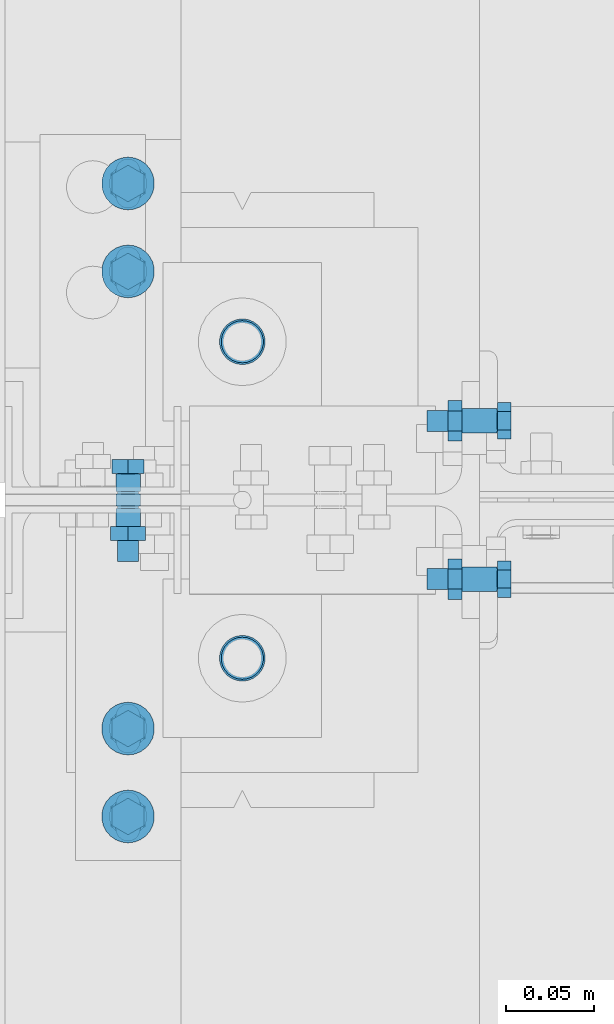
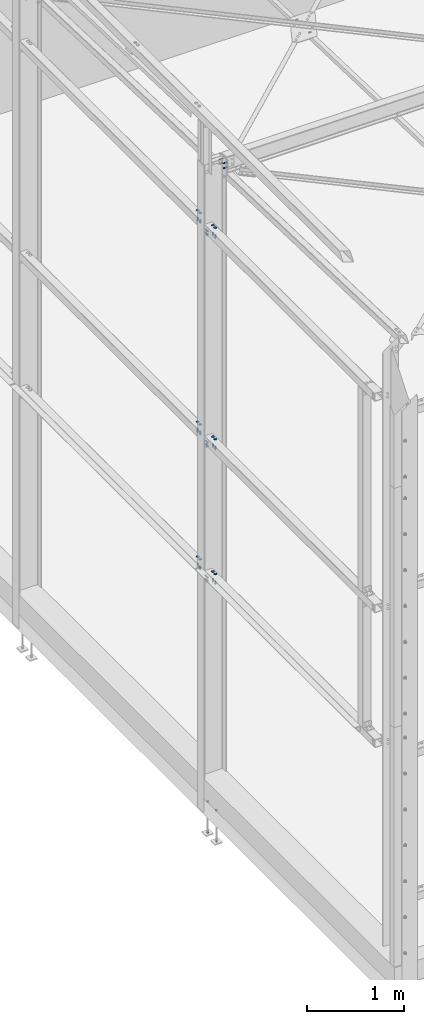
# One storey, part 211 of 362: 23 mechanical fasteners.
"""IFC2X3 building model written with IfcOpenShell, lengths in millimetres."""

from ifc_helpers import new_model, si_unit, frame, frame_2d, origin_with_axes, origin_2d_with_axis, place, context, subcontext, project, spatial, polyline, circle_curve, parameter, trimmed, segment, composite_curve, circle, outline, extrude, source, transform, mapped, material, type_object, element, save


model = new_model("IFC2X3")

# Units and contexts
model_context = context("Model", 3, precision=1e-05, world=origin_with_axes())
body_context = subcontext(model_context, "Body", "Model", "MODEL_VIEW")
ifc_project = project(units=[si_unit("LENGTHUNIT", "METRE", prefix="MILLI"), si_unit("AREAUNIT", "SQUARE_METRE"), si_unit("VOLUMEUNIT", "CUBIC_METRE"), si_unit("MASSUNIT", "GRAM", prefix="KILO"), si_unit("TIMEUNIT", "SECOND"), si_unit("PLANEANGLEUNIT", "RADIAN"), si_unit("SOLIDANGLEUNIT", "STERADIAN"), si_unit("THERMODYNAMICTEMPERATUREUNIT", "DEGREE_CELSIUS"), si_unit("LUMINOUSINTENSITYUNIT", "LUMEN")], contexts=[model_context])

# Site, building, storey
site_placement = place(None, origin_with_axes())
site = spatial("IfcSite", under=ifc_project, at=site_placement, Name="Undefined", CompositionType="ELEMENT")
building_placement = place(site_placement, origin_with_axes())
building = spatial("IfcBuilding", under=site, at=building_placement, Name="Undefined", CompositionType="ELEMENT")
storey_placement = place(building_placement, origin_with_axes())
storey = spatial("IfcBuildingStorey", under=building, at=storey_placement, Name="Undefined", CompositionType="ELEMENT", Elevation=0.0)

# Mechanical fasteners
ifc_material_1 = material(Name="6.8")
mechanical_fastener_type = type_object("IfcMechanicalFastenerType", Name="Bolt assembly")
shared_shape_1 = source(origin_with_axes(), body_context, "Body", "SweptSolid", [
    extrude(circle(Radius=15.0, at=origin_2d_with_axis()), frame((0.0, 0.0, 0.0), z_axis=(0.0, 1.0, 0.0), x_axis=(1.0, 0.0, 0.0)), (0.0, 0.0, 1.0), 4.1),
])
for number, where, z_axis, x_axis, name in (
    (1, (-110.000005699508, 3980.00000097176, 2859.9999839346), (1.0, 0.0, 0.0), (0.0, -1.0, 0.0), "Bolt assembly"),
    (2, (-110.000004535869, 3620.00000097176, 2859.9999839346), (-1.0, 0.0, 0.0), (0.0, 1.0, 0.0), "Bolt assembly"),
    (3, (-110.000005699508, 3980.00000097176, 4549.99998404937), (1.0, 0.0, 0.0), (0.0, -1.0, 0.0), "Bolt assembly"),
    (4, (-110.000004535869, 3620.00000097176, 4549.99998404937), (-1.0, 0.0, 0.0), (0.0, 1.0, 0.0), "Bolt assembly"),
    (5, (-110.000005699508, 3980.00000097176, 7200.0), (1.0, 0.0, 0.0), (0.0, -1.0, 0.0), "Bolt assembly"),
    (6, (-110.000004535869, 3620.00000097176, 7200.0), (-1.0, 0.0, 0.0), (0.0, 1.0, 0.0), "Bolt assembly"),
):
    element("IfcMechanicalFastener", number, at=place(storey_placement, frame(where, z_axis=z_axis, x_axis=x_axis)), inside=storey, type_object=mechanical_fastener_type, material=ifc_material_1, Name=name, NominalDiameter=30.0, NominalLength=4.0, context=body_context, shape_type="MappedRepresentation", body=[
        mapped(shared_shape_1, transform((0.0, 0.0, 0.0))),
        mapped(shared_shape_1, transform((49.9999999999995, 0.0, -3.63797880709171e-12))),
    ])
ifc_material_2 = material(Name="8.8-SB-ZINGUE")
shared_shape_2 = source(origin_with_axes(), body_context, "Body", "SweptSolid", [
    extrude(circle(Radius=7.0, at=origin_2d_with_axis()), frame((0.0, -3.29999884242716, 0.0), z_axis=(0.0, 1.0, 0.0), x_axis=(1.0, 0.0, 0.0)), (0.0, 0.0, 1.0), 6.6),
    extrude(circle(Radius=7.0, at=origin_2d_with_axis()), frame((0.0, 4.9000000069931, 0.0), z_axis=(0.0, 1.0, 0.0), x_axis=(1.0, 0.0, 0.0)), (0.0, 0.0, 1.0), 10.1),
    extrude(circle(Radius=7.0, at=origin_2d_with_axis()), frame((0.0, -14.899999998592, 0.0), z_axis=(0.0, 1.0, 0.0), x_axis=(1.0, 0.0, 0.0)), (0.0, 0.0, 1.0), 10.0),
    extrude(outline(polyline([(10.39230484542, 0.0), (5.19615242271, 9.00000000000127), (-5.19615242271, 9.00000000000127), (-10.39230484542, 0.0), (-5.19615242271, -9.00000000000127), (5.19615242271, -9.00000000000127), (10.39230484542, 0.0)])), frame((0.0, -22.919999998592, 0.0), z_axis=(0.0, 1.0, 0.0), x_axis=(1.0, 0.0, 0.0)), (0.0, 0.0, 1.0), 7.92),
    extrude(circle(Radius=6.0, at=origin_2d_with_axis()), frame((0.0, -14.999999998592, 0.0), z_axis=(0.0, 1.0, 0.0), x_axis=(1.0, 0.0, 0.0)), (0.0, 0.0, 1.0), 50.0),
    extrude(outline(polyline([(11.5008173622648, 0.0), (5.7504086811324, 9.96000000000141), (-5.7504086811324, 9.96000000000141), (-11.5008173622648, 0.0), (-5.7504086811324, -9.96000000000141), (5.7504086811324, -9.96000000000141), (11.5008173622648, 0.0)])), frame((0.0, 15.0000000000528, 0.0), z_axis=(0.0, 1.0, 0.0), x_axis=(1.0, 0.0, 0.0)), (0.0, 0.0, 1.0), 7.92),
])
for number, where, z_axis, x_axis, name in (
    (7, (-110.000007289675, 3799.99999839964, 2679.9999839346), (1.0, 0.0, 0.0), (0.0, 0.0, 1.0), "Bolt assembly"),
    (8, (-110.000007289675, 3799.99999839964, 4369.99998404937), (1.0, 0.0, 0.0), (0.0, 0.0, 1.0), "Bolt assembly"),
    (9, (-110.000007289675, 3799.99999839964, 7020.0), (1.0, 0.0, 0.0), (0.0, 0.0, 1.0), "Bolt assembly"),
):
    element("IfcMechanicalFastener", number, at=place(storey_placement, frame(where, z_axis=z_axis, x_axis=x_axis)), inside=storey, type_object=mechanical_fastener_type, material=ifc_material_2, Name=name, NominalDiameter=12.0, NominalLength=50.0, context=body_context, shape_type="MappedRepresentation", body=[
        mapped(shared_shape_2, transform((0.0, 0.0, 0.0))),
        mapped(shared_shape_2, transform((40.0, 0.0, 0.0))),
    ])
shared_shape_3 = source(origin_with_axes(), body_context, "Body", "SweptSolid", [
    extrude(circle(Radius=7.0, at=origin_2d_with_axis()), frame((0.0, -3.89999843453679, 0.0), z_axis=(0.0, 1.0, 0.0), x_axis=(1.0, 0.0, 0.0)), (0.0, 0.0, 1.0), 4.0),
    extrude(outline(composite_curve([segment(polyline([(-7.0, 7.0), (7.0, 7.0)]), True, "CONTINUOUS"), segment(trimmed(circle_curve(frame_2d((7.0, 0.0), x_axis=(0.0, 1.0)), 7.0), [parameter(0.0)], [parameter(3.14159265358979)], False, "PARAMETER"), True, "CONTINUOUS"), segment(polyline([(7.0, -7.0), (-7.0, -7.0)]), True, "CONTINUOUS"), segment(trimmed(circle_curve(frame_2d((-7.0, 0.0), x_axis=(0.0, -1.0)), 7.0), [parameter(0.0)], [parameter(3.14159265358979)], False, "PARAMETER"), True, "DISCONTINUOUS")], self_intersect=False)), frame((0.0, -0.100011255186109, 0.0), z_axis=(0.0, 1.0, 0.0), x_axis=(1.0, 0.0, 0.0)), (0.0, 0.0, 1.0), 10.1),
    extrude(outline(polyline([(10.39230484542, 0.0), (5.19615242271, 9.00000000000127), (-5.19615242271, 9.00000000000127), (-10.39230484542, 0.0), (-5.19615242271, -9.00000000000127), (5.19615242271, -9.00000000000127), (10.39230484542, 0.0)])), frame((0.0, -11.9199984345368, 0.0), z_axis=(0.0, 1.0, 0.0), x_axis=(1.0, 0.0, 0.0)), (0.0, 0.0, 1.0), 7.92),
    extrude(circle(Radius=6.0, at=origin_2d_with_axis()), frame((0.0, -3.99999923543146, 0.0), z_axis=(0.0, 1.0, 0.0), x_axis=(1.0, 0.0, 0.0)), (0.0, 0.0, 1.0), 40.0),
    extrude(circle(Radius=10.8, at=origin_2d_with_axis()), frame((0.0, 10.0000000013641, 0.0), z_axis=(0.0, 1.0, 0.0), x_axis=(1.0, 0.0, 0.0)), (0.0, 0.0, 1.0), 3.96),
    extrude(outline(polyline([(11.5008173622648, 0.0), (5.7504086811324, 9.96000000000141), (-5.7504086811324, 9.96000000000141), (-11.5008173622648, 0.0), (-5.7504086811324, -9.96000000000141), (5.7504086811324, -9.96000000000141), (11.5008173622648, 0.0)])), frame((0.0, 13.96, 0.0), z_axis=(0.0, 1.0, 0.0), x_axis=(1.0, 0.0, 0.0)), (0.0, 0.0, 1.0), 7.92),
])
mechanical_fastener_1_placement = place(storey_placement, frame((-110.00000569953, 3980.00000097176, 2759.9999839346), z_axis=(1.0, 0.0, 0.0), x_axis=(0.0, -1.0, 0.0)))
element("IfcMechanicalFastener", 10, at=mechanical_fastener_1_placement, inside=storey, type_object=mechanical_fastener_type, material=ifc_material_2, Name="Bolt assembly", NominalDiameter=12.0, NominalLength=40.0, context=body_context, shape_type="MappedRepresentation", body=[
    mapped(shared_shape_3, transform((0.0, 0.0, 0.0))),
    mapped(shared_shape_3, transform((49.9999999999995, 0.0, -3.63797880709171e-12))),
])
shared_shape_4 = source(origin_with_axes(), body_context, "Body", "SweptSolid", [
    extrude(circle(Radius=7.0, at=origin_2d_with_axis()), frame((0.0, -3.89999843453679, 0.0), z_axis=(0.0, 1.0, 0.0), x_axis=(1.0, 0.0, 0.0)), (0.0, 0.0, 1.0), 4.0),
    extrude(outline(composite_curve([segment(polyline([(-7.0, 7.0), (7.0, 7.0)]), True, "CONTINUOUS"), segment(trimmed(circle_curve(frame_2d((7.0, 0.0), x_axis=(0.0, 1.0)), 7.0), [parameter(0.0)], [parameter(3.14159265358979)], False, "PARAMETER"), True, "CONTINUOUS"), segment(polyline([(7.0, -7.0), (-7.0, -7.0)]), True, "CONTINUOUS"), segment(trimmed(circle_curve(frame_2d((-7.0, 0.0), x_axis=(0.0, -1.0)), 7.0), [parameter(0.0)], [parameter(3.14159265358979)], False, "PARAMETER"), True, "DISCONTINUOUS")], self_intersect=False)), frame((0.0, -0.100011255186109, 0.0), z_axis=(0.0, 1.0, 0.0), x_axis=(1.0, 0.0, 0.0)), (0.0, 0.0, 1.0), 10.1),
    extrude(outline(polyline([(10.39230484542, 0.0), (5.19615242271, 9.00000000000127), (-5.19615242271, 9.00000000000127), (-10.39230484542, 0.0), (-5.19615242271, -9.00000000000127), (5.19615242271, -9.00000000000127), (10.39230484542, 0.0)])), frame((0.0, -11.9199984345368, 0.0), z_axis=(0.0, 1.0, 0.0), x_axis=(1.0, 0.0, 0.0)), (0.0, 0.0, 1.0), 7.92),
    extrude(circle(Radius=6.0, at=origin_2d_with_axis()), frame((0.0, -3.99999923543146, 0.0), z_axis=(0.0, 1.0, 0.0), x_axis=(1.0, 0.0, 0.0)), (0.0, 0.0, 1.0), 40.0),
    extrude(circle(Radius=10.8, at=origin_2d_with_axis()), frame((0.0, 10.0000000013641, 0.0), z_axis=(0.0, 1.0, 0.0), x_axis=(1.0, 0.0, 0.0)), (0.0, 0.0, 1.0), 3.96),
    extrude(outline(polyline([(11.5008173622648, 0.0), (5.7504086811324, 9.96000000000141), (-5.7504086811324, 9.96000000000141), (-11.5008173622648, 0.0), (-5.7504086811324, -9.96000000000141), (5.7504086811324, -9.96000000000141), (11.5008173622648, 0.0)])), frame((0.0, 13.96, 0.0), z_axis=(0.0, 1.0, 0.0), x_axis=(1.0, 0.0, 0.0)), (0.0, 0.0, 1.0), 7.92),
])
mechanical_fastener_2_placement = place(storey_placement, frame((-110.000004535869, 3620.00000097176, 2759.9999839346), z_axis=(-1.0, 0.0, 0.0), x_axis=(0.0, 1.0, 0.0)))
element("IfcMechanicalFastener", 11, at=mechanical_fastener_2_placement, inside=storey, type_object=mechanical_fastener_type, material=ifc_material_2, Name="Bolt assembly", NominalDiameter=12.0, NominalLength=40.0, context=body_context, shape_type="MappedRepresentation", body=[
    mapped(shared_shape_4, transform((0.0, 0.0, 0.0))),
    mapped(shared_shape_4, transform((49.9999999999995, 0.0, -3.63797880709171e-12))),
])
shared_shape_5 = source(origin_with_axes(), body_context, "Body", "SweptSolid", [
    extrude(circle(Radius=7.0, at=origin_2d_with_axis()), frame((0.0, -3.89999843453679, 0.0), z_axis=(0.0, 1.0, 0.0), x_axis=(1.0, 0.0, 0.0)), (0.0, 0.0, 1.0), 4.0),
    extrude(outline(composite_curve([segment(polyline([(-7.0, 7.0), (7.0, 7.0)]), True, "CONTINUOUS"), segment(trimmed(circle_curve(frame_2d((7.0, 0.0), x_axis=(0.0, 1.0)), 7.0), [parameter(0.0)], [parameter(3.14159265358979)], False, "PARAMETER"), True, "CONTINUOUS"), segment(polyline([(7.0, -7.0), (-7.0, -7.0)]), True, "CONTINUOUS"), segment(trimmed(circle_curve(frame_2d((-7.0, 0.0), x_axis=(0.0, -1.0)), 7.0), [parameter(0.0)], [parameter(3.14159265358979)], False, "PARAMETER"), True, "DISCONTINUOUS")], self_intersect=False)), frame((0.0, -0.100011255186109, 0.0), z_axis=(0.0, 1.0, 0.0), x_axis=(1.0, 0.0, 0.0)), (0.0, 0.0, 1.0), 10.1),
    extrude(outline(polyline([(10.39230484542, 0.0), (5.19615242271, 9.00000000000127), (-5.19615242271, 9.00000000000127), (-10.39230484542, 0.0), (-5.19615242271, -9.00000000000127), (5.19615242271, -9.00000000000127), (10.39230484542, 0.0)])), frame((0.0, -11.9199984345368, 0.0), z_axis=(0.0, 1.0, 0.0), x_axis=(1.0, 0.0, 0.0)), (0.0, 0.0, 1.0), 7.92),
    extrude(circle(Radius=6.0, at=origin_2d_with_axis()), frame((0.0, -3.99999923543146, 0.0), z_axis=(0.0, 1.0, 0.0), x_axis=(1.0, 0.0, 0.0)), (0.0, 0.0, 1.0), 40.0),
    extrude(circle(Radius=10.8, at=origin_2d_with_axis()), frame((0.0, 10.0000000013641, 0.0), z_axis=(0.0, 1.0, 0.0), x_axis=(1.0, 0.0, 0.0)), (0.0, 0.0, 1.0), 3.96),
    extrude(outline(polyline([(11.5008173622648, 0.0), (5.7504086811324, 9.96000000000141), (-5.7504086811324, 9.96000000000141), (-11.5008173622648, 0.0), (-5.7504086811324, -9.96000000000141), (5.7504086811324, -9.96000000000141), (11.5008173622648, 0.0)])), frame((0.0, 13.96, 0.0), z_axis=(0.0, 1.0, 0.0), x_axis=(1.0, 0.0, 0.0)), (0.0, 0.0, 1.0), 7.92),
])
mechanical_fastener_3_placement = place(storey_placement, frame((-110.00000569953, 3980.00000097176, 4449.99998404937), z_axis=(1.0, 0.0, 0.0), x_axis=(0.0, -1.0, 0.0)))
element("IfcMechanicalFastener", 12, at=mechanical_fastener_3_placement, inside=storey, type_object=mechanical_fastener_type, material=ifc_material_2, Name="Bolt assembly", NominalDiameter=12.0, NominalLength=40.0, context=body_context, shape_type="MappedRepresentation", body=[
    mapped(shared_shape_5, transform((0.0, 0.0, 0.0))),
    mapped(shared_shape_5, transform((49.9999999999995, 0.0, -3.63797880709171e-12))),
])
shared_shape_6 = source(origin_with_axes(), body_context, "Body", "SweptSolid", [
    extrude(circle(Radius=7.0, at=origin_2d_with_axis()), frame((0.0, -3.89999843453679, 0.0), z_axis=(0.0, 1.0, 0.0), x_axis=(1.0, 0.0, 0.0)), (0.0, 0.0, 1.0), 4.0),
    extrude(outline(composite_curve([segment(polyline([(-7.0, 7.0), (7.0, 7.0)]), True, "CONTINUOUS"), segment(trimmed(circle_curve(frame_2d((7.0, 0.0), x_axis=(0.0, 1.0)), 7.0), [parameter(0.0)], [parameter(3.14159265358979)], False, "PARAMETER"), True, "CONTINUOUS"), segment(polyline([(7.0, -7.0), (-7.0, -7.0)]), True, "CONTINUOUS"), segment(trimmed(circle_curve(frame_2d((-7.0, 0.0), x_axis=(0.0, -1.0)), 7.0), [parameter(0.0)], [parameter(3.14159265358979)], False, "PARAMETER"), True, "DISCONTINUOUS")], self_intersect=False)), frame((0.0, -0.100011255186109, 0.0), z_axis=(0.0, 1.0, 0.0), x_axis=(1.0, 0.0, 0.0)), (0.0, 0.0, 1.0), 10.1),
    extrude(outline(polyline([(10.39230484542, 0.0), (5.19615242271, 9.00000000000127), (-5.19615242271, 9.00000000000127), (-10.39230484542, 0.0), (-5.19615242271, -9.00000000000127), (5.19615242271, -9.00000000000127), (10.39230484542, 0.0)])), frame((0.0, -11.9199984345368, 0.0), z_axis=(0.0, 1.0, 0.0), x_axis=(1.0, 0.0, 0.0)), (0.0, 0.0, 1.0), 7.92),
    extrude(circle(Radius=6.0, at=origin_2d_with_axis()), frame((0.0, -3.99999923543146, 0.0), z_axis=(0.0, 1.0, 0.0), x_axis=(1.0, 0.0, 0.0)), (0.0, 0.0, 1.0), 40.0),
    extrude(circle(Radius=10.8, at=origin_2d_with_axis()), frame((0.0, 10.0000000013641, 0.0), z_axis=(0.0, 1.0, 0.0), x_axis=(1.0, 0.0, 0.0)), (0.0, 0.0, 1.0), 3.96),
    extrude(outline(polyline([(11.5008173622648, 0.0), (5.7504086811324, 9.96000000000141), (-5.7504086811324, 9.96000000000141), (-11.5008173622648, 0.0), (-5.7504086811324, -9.96000000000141), (5.7504086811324, -9.96000000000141), (11.5008173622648, 0.0)])), frame((0.0, 13.96, 0.0), z_axis=(0.0, 1.0, 0.0), x_axis=(1.0, 0.0, 0.0)), (0.0, 0.0, 1.0), 7.92),
])
mechanical_fastener_4_placement = place(storey_placement, frame((-110.000004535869, 3620.00000097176, 4449.99998404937), z_axis=(-1.0, 0.0, 0.0), x_axis=(0.0, 1.0, 0.0)))
element("IfcMechanicalFastener", 13, at=mechanical_fastener_4_placement, inside=storey, type_object=mechanical_fastener_type, material=ifc_material_2, Name="Bolt assembly", NominalDiameter=12.0, NominalLength=40.0, context=body_context, shape_type="MappedRepresentation", body=[
    mapped(shared_shape_6, transform((0.0, 0.0, 0.0))),
    mapped(shared_shape_6, transform((49.9999999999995, 0.0, -3.63797880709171e-12))),
])
shared_shape_7 = source(origin_with_axes(), body_context, "Body", "SweptSolid", [
    extrude(circle(Radius=7.0, at=origin_2d_with_axis()), frame((0.0, -3.89999843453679, 0.0), z_axis=(0.0, 1.0, 0.0), x_axis=(1.0, 0.0, 0.0)), (0.0, 0.0, 1.0), 4.0),
    extrude(outline(composite_curve([segment(polyline([(-7.0, 7.0), (7.0, 7.0)]), True, "CONTINUOUS"), segment(trimmed(circle_curve(frame_2d((7.0, 0.0), x_axis=(0.0, 1.0)), 7.0), [parameter(0.0)], [parameter(3.14159265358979)], False, "PARAMETER"), True, "CONTINUOUS"), segment(polyline([(7.0, -7.0), (-7.0, -7.0)]), True, "CONTINUOUS"), segment(trimmed(circle_curve(frame_2d((-7.0, 0.0), x_axis=(0.0, -1.0)), 7.0), [parameter(0.0)], [parameter(3.14159265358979)], False, "PARAMETER"), True, "DISCONTINUOUS")], self_intersect=False)), frame((0.0, -0.100011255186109, 0.0), z_axis=(0.0, 1.0, 0.0), x_axis=(1.0, 0.0, 0.0)), (0.0, 0.0, 1.0), 10.1),
    extrude(outline(polyline([(10.39230484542, 0.0), (5.19615242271, 9.00000000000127), (-5.19615242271, 9.00000000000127), (-10.39230484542, 0.0), (-5.19615242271, -9.00000000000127), (5.19615242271, -9.00000000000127), (10.39230484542, 0.0)])), frame((0.0, -11.9199984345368, 0.0), z_axis=(0.0, 1.0, 0.0), x_axis=(1.0, 0.0, 0.0)), (0.0, 0.0, 1.0), 7.92),
    extrude(circle(Radius=6.0, at=origin_2d_with_axis()), frame((0.0, -3.99999923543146, 0.0), z_axis=(0.0, 1.0, 0.0), x_axis=(1.0, 0.0, 0.0)), (0.0, 0.0, 1.0), 40.0),
    extrude(circle(Radius=10.8, at=origin_2d_with_axis()), frame((0.0, 10.0000000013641, 0.0), z_axis=(0.0, 1.0, 0.0), x_axis=(1.0, 0.0, 0.0)), (0.0, 0.0, 1.0), 3.96),
    extrude(outline(polyline([(11.5008173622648, 0.0), (5.7504086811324, 9.96000000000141), (-5.7504086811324, 9.96000000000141), (-11.5008173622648, 0.0), (-5.7504086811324, -9.96000000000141), (5.7504086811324, -9.96000000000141), (11.5008173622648, 0.0)])), frame((0.0, 13.96, 0.0), z_axis=(0.0, 1.0, 0.0), x_axis=(1.0, 0.0, 0.0)), (0.0, 0.0, 1.0), 7.92),
])
mechanical_fastener_5_placement = place(storey_placement, frame((-110.00000569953, 3980.00000097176, 7100.0), z_axis=(1.0, 0.0, 0.0), x_axis=(0.0, -1.0, 0.0)))
element("IfcMechanicalFastener", 14, at=mechanical_fastener_5_placement, inside=storey, type_object=mechanical_fastener_type, material=ifc_material_2, Name="Bolt assembly", NominalDiameter=12.0, NominalLength=40.0, context=body_context, shape_type="MappedRepresentation", body=[
    mapped(shared_shape_7, transform((0.0, 0.0, 0.0))),
    mapped(shared_shape_7, transform((49.9999999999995, 0.0, -3.63797880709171e-12))),
])
shared_shape_8 = source(origin_with_axes(), body_context, "Body", "SweptSolid", [
    extrude(circle(Radius=7.0, at=origin_2d_with_axis()), frame((0.0, -3.89999843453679, 0.0), z_axis=(0.0, 1.0, 0.0), x_axis=(1.0, 0.0, 0.0)), (0.0, 0.0, 1.0), 4.0),
    extrude(outline(composite_curve([segment(polyline([(-7.0, 7.0), (7.0, 7.0)]), True, "CONTINUOUS"), segment(trimmed(circle_curve(frame_2d((7.0, 0.0), x_axis=(0.0, 1.0)), 7.0), [parameter(0.0)], [parameter(3.14159265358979)], False, "PARAMETER"), True, "CONTINUOUS"), segment(polyline([(7.0, -7.0), (-7.0, -7.0)]), True, "CONTINUOUS"), segment(trimmed(circle_curve(frame_2d((-7.0, 0.0), x_axis=(0.0, -1.0)), 7.0), [parameter(0.0)], [parameter(3.14159265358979)], False, "PARAMETER"), True, "DISCONTINUOUS")], self_intersect=False)), frame((0.0, -0.100011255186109, 0.0), z_axis=(0.0, 1.0, 0.0), x_axis=(1.0, 0.0, 0.0)), (0.0, 0.0, 1.0), 10.1),
    extrude(outline(polyline([(10.39230484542, 0.0), (5.19615242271, 9.00000000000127), (-5.19615242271, 9.00000000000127), (-10.39230484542, 0.0), (-5.19615242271, -9.00000000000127), (5.19615242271, -9.00000000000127), (10.39230484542, 0.0)])), frame((0.0, -11.9199984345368, 0.0), z_axis=(0.0, 1.0, 0.0), x_axis=(1.0, 0.0, 0.0)), (0.0, 0.0, 1.0), 7.92),
    extrude(circle(Radius=6.0, at=origin_2d_with_axis()), frame((0.0, -3.99999923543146, 0.0), z_axis=(0.0, 1.0, 0.0), x_axis=(1.0, 0.0, 0.0)), (0.0, 0.0, 1.0), 40.0),
    extrude(circle(Radius=10.8, at=origin_2d_with_axis()), frame((0.0, 10.0000000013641, 0.0), z_axis=(0.0, 1.0, 0.0), x_axis=(1.0, 0.0, 0.0)), (0.0, 0.0, 1.0), 3.96),
    extrude(outline(polyline([(11.5008173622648, 0.0), (5.7504086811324, 9.96000000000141), (-5.7504086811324, 9.96000000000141), (-11.5008173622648, 0.0), (-5.7504086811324, -9.96000000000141), (5.7504086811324, -9.96000000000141), (11.5008173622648, 0.0)])), frame((0.0, 13.96, 0.0), z_axis=(0.0, 1.0, 0.0), x_axis=(1.0, 0.0, 0.0)), (0.0, 0.0, 1.0), 7.92),
])
mechanical_fastener_6_placement = place(storey_placement, frame((-110.000004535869, 3620.00000097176, 7100.0), z_axis=(-1.0, 0.0, 0.0), x_axis=(0.0, 1.0, 0.0)))
element("IfcMechanicalFastener", 15, at=mechanical_fastener_6_placement, inside=storey, type_object=mechanical_fastener_type, material=ifc_material_2, Name="Bolt assembly", NominalDiameter=12.0, NominalLength=40.0, context=body_context, shape_type="MappedRepresentation", body=[
    mapped(shared_shape_8, transform((0.0, 0.0, 0.0))),
    mapped(shared_shape_8, transform((49.9999999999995, 0.0, -3.63797880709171e-12))),
])
shared_shape_9 = source(origin_with_axes(), body_context, "Body", "SweptSolid", [
    extrude(circle(Radius=7.0, at=origin_2d_with_axis()), frame((0.0, -0.100011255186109, 0.0), z_axis=(0.0, 1.0, 0.0), x_axis=(1.0, 0.0, 0.0)), (0.0, 0.0, 1.0), 10.3),
    extrude(circle(Radius=7.0, at=origin_2d_with_axis()), frame((0.0, -9.9, 0.0), z_axis=(0.0, 1.0, 0.0), x_axis=(1.0, 0.0, 0.0)), (0.0, 0.0, 1.0), 10.0),
    extrude(outline(polyline([(10.39230484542, 0.0), (5.19615242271, 9.00000000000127), (-5.19615242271, 9.00000000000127), (-10.39230484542, 0.0), (-5.19615242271, -9.00000000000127), (5.19615242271, -9.00000000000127), (10.39230484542, 0.0)])), frame((0.0, -17.92, 0.0), z_axis=(0.0, 1.0, 0.0), x_axis=(1.0, 0.0, 0.0)), (0.0, 0.0, 1.0), 7.92),
    extrude(circle(Radius=6.0, at=origin_2d_with_axis()), frame((0.0, -10.0000010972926, 0.0), z_axis=(0.0, 1.0, 0.0), x_axis=(1.0, 0.0, 0.0)), (0.0, 0.0, 1.0), 40.0),
    extrude(outline(polyline([(11.5008173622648, 0.0), (5.7504086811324, 9.96000000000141), (-5.7504086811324, 9.96000000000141), (-11.5008173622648, 0.0), (-5.7504086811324, -9.96000000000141), (5.7504086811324, -9.96000000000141), (11.5008173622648, 0.0)])), frame((0.0, 10.1999997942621, 0.0), z_axis=(0.0, 1.0, 0.0), x_axis=(1.0, 0.0, 0.0)), (0.0, 0.0, 1.0), 7.92),
])
for number, where, z_axis, x_axis, name in (
    (16, (89.999998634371, 3845.00557618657, 7859.13120537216), (0.0, 0.0, 1.0), (0.0, 1.0, 0.0), "Bolt assembly"),
    (17, (89.999998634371, 3845.00557618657, 7799.10158351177), (0.0, 0.0, 1.0), (0.0, 1.0, 0.0), "Bolt assembly"),
    (18, (89.999998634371, 3755.00557618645, 7801.92998881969), (0.0, 0.0, -1.0), (0.0, -1.0, 0.0), "Bolt assembly"),
    (19, (89.999998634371, 3755.00557618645, 7861.95961068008), (0.0, 0.0, -1.0), (0.0, -1.0, 0.0), "Bolt assembly"),
):
    element("IfcMechanicalFastener", number, at=place(storey_placement, frame(where, z_axis=z_axis, x_axis=x_axis)), inside=storey, type_object=mechanical_fastener_type, material=ifc_material_2, Name=name, NominalDiameter=12.0, NominalLength=40.0, context=body_context, shape_type="MappedRepresentation", body=[
        mapped(shared_shape_9, transform((0.0, 0.0, 0.0))),
    ])
shared_shape_10 = source(origin_with_axes(), body_context, "Body", "SweptSolid", [
    extrude(circle(Radius=13.0, at=origin_2d_with_axis()), frame((0.0, -14.999999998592, 0.0), z_axis=(0.0, 1.0, 0.0), x_axis=(1.0, 0.0, 0.0)), (0.0, 0.0, 1.0), 15.1),
])
for number, where, z_axis, x_axis, name in (
    (20, (-45.0, 3709.99715044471, -185.0), (1.0, 0.0, 0.0), (0.0, -1.0, 0.0), "Bolt assembly"),
    (21, (-45.0, 3889.99715044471, -185.0), (1.0, 0.0, 0.0), (0.0, -1.0, 0.0), "Bolt assembly"),
):
    element("IfcMechanicalFastener", number, at=place(storey_placement, frame(where, z_axis=z_axis, x_axis=x_axis)), inside=storey, type_object=mechanical_fastener_type, material=ifc_material_1, Name=name, NominalDiameter=24.0, NominalLength=15.0, context=body_context, shape_type="MappedRepresentation", body=[
        mapped(shared_shape_10, transform((0.0, 0.0, 0.0))),
    ])
shared_shape_11 = source(origin_with_axes(), body_context, "Body", "SweptSolid", [
    extrude(circle(Radius=12.0, at=origin_2d_with_axis()), frame((0.0, -14.999999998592, 0.0), z_axis=(0.0, 1.0, 0.0), x_axis=(1.0, 0.0, 0.0)), (0.0, 0.0, 1.0), 15.1),
])
for number, where, z_axis, x_axis, name in (
    (22, (-45.0, 3709.99715044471, -580.0), (1.0, 0.0, 0.0), (0.0, -1.0, 0.0), "Bolt assembly"),
    (23, (-45.0, 3889.99715044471, -580.0), (1.0, 0.0, 0.0), (0.0, -1.0, 0.0), "Bolt assembly"),
):
    element("IfcMechanicalFastener", number, at=place(storey_placement, frame(where, z_axis=z_axis, x_axis=x_axis)), inside=storey, type_object=mechanical_fastener_type, material=ifc_material_1, Name=name, NominalDiameter=22.0, NominalLength=15.0, context=body_context, shape_type="MappedRepresentation", body=[
        mapped(shared_shape_11, transform((0.0, 0.0, 0.0))),
    ])

save(model, "model.ifc")
